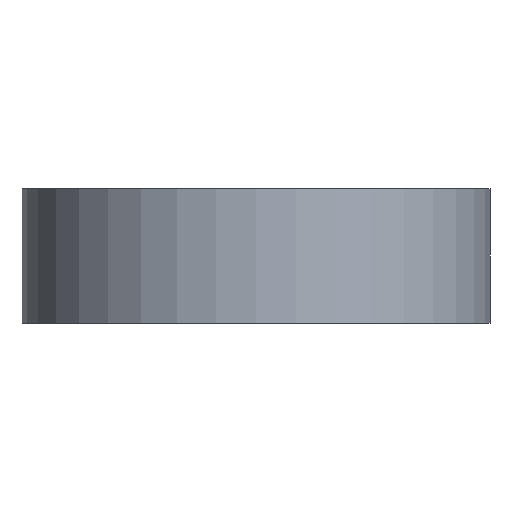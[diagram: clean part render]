
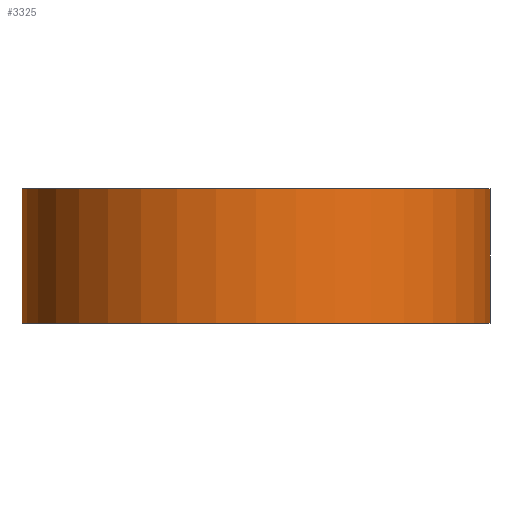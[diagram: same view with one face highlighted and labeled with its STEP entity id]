
A CAD part, front view. The second image highlights one B-rep face of the part: STEP entity #3325.
In plain terms, the highlighted cylindrical face has radius 29.5 mm (diameter 59 mm), a partial arc.
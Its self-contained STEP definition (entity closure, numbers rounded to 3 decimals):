
#348=LINE('',#5580,#424);
#352=LINE('',#5592,#428);
#424=VECTOR('',#4297,10.);
#428=VECTOR('',#4307,10.);
#687=FACE_OUTER_BOUND('',#891,.T.);
#891=EDGE_LOOP('',(#2384,#2385,#2386,#2387));
#1214=CIRCLE('',#3618,29.5);
#1215=CIRCLE('',#3619,29.5);
#1518=VERTEX_POINT('',#5573);
#1521=VERTEX_POINT('',#5578);
#1525=VERTEX_POINT('',#5589);
#1526=VERTEX_POINT('',#5591);
#1875=EDGE_CURVE('',#1521,#1518,#348,.T.);
#1880=EDGE_CURVE('',#1525,#1526,#352,.T.);
#1883=EDGE_CURVE('',#1521,#1526,#1214,.T.);
#1884=EDGE_CURVE('',#1518,#1525,#1215,.T.);
#2384=ORIENTED_EDGE('',*,*,#1875,.F.);
#2385=ORIENTED_EDGE('',*,*,#1883,.T.);
#2386=ORIENTED_EDGE('',*,*,#1880,.F.);
#2387=ORIENTED_EDGE('',*,*,#1884,.F.);
#3245=CYLINDRICAL_SURFACE('',#3617,29.5);
#3325=ADVANCED_FACE('',(#687),#3245,.T.);
#3617=AXIS2_PLACEMENT_3D('',#5596,#4311,#4312);
#3618=AXIS2_PLACEMENT_3D('',#5597,#4313,#4314);
#3619=AXIS2_PLACEMENT_3D('',#5598,#4315,#4316);
#4297=DIRECTION('',(0.,0.,-1.));
#4307=DIRECTION('',(0.,0.,1.));
#4311=DIRECTION('center_axis',(0.,0.,1.));
#4312=DIRECTION('ref_axis',(0.543,-0.84,0.));
#4313=DIRECTION('center_axis',(0.,0.,-1.));
#4314=DIRECTION('ref_axis',(0.543,-0.84,0.));
#4315=DIRECTION('center_axis',(0.,0.,-1.));
#4316=DIRECTION('ref_axis',(0.543,-0.84,0.));
#5573=CARTESIAN_POINT('',(20.042,21.646,0.));
#5578=CARTESIAN_POINT('',(20.042,21.646,17.));
#5580=CARTESIAN_POINT('',(20.042,21.646,0.));
#5589=CARTESIAN_POINT('',(-20.042,21.646,0.));
#5591=CARTESIAN_POINT('',(-20.042,21.646,17.));
#5592=CARTESIAN_POINT('',(-20.042,21.646,0.));
#5596=CARTESIAN_POINT('Origin',(0.,0.,0.));
#5597=CARTESIAN_POINT('Origin',(0.,0.,17.));
#5598=CARTESIAN_POINT('Origin',(0.,0.,0.));
